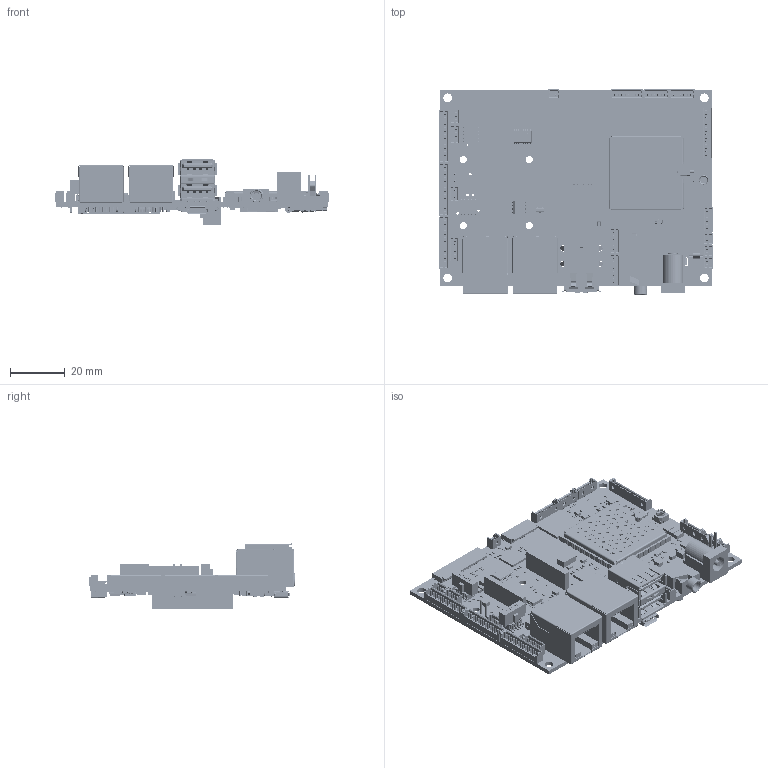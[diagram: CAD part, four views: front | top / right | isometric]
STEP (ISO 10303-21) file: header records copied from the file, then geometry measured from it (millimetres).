
FILE_DESCRIPTION(('Open CASCADE Model'),'2;1');
FILE_NAME('Open CASCADE Shape Model','2016-11-11T16:49:46',('Author'),( 'Open CASCADE'),'Open CASCADE STEP processor 6.8','Open CASCADE 6.8' ,'Unknown');
FILE_SCHEMA(('AUTOMOTIVE_DESIGN { 1 0 10303 214 1 1 1 1 }'));
Length unit declared in the file: millimetre
Products named in the file (876): PCB; Board; R280; 1370324968; Extruded; 1370324832; R283; 753231312; 753231448; R282; 753231040; 753231176; R281; R181; R155; R125; R123; R77; C121; 1370324152; 1370324016; R257; J37; FFSD-05-01-N; FTSH-105-01-X-DV; T-1S15_FTSH-01-DV; FTSH-50-D_Formula; J11; U25; BGA72C65P9X9_700X700X112B35; U2; 1370328096; 1299817856; Cylinder; L24; 1370319800; 1370319936; R279; 1370317760; 1370317624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
Assembly tree (2505 placements, depth 5):
  PCB
    Board
    R280
      1370324968
        Extruded
      1370324832  x2
        Extruded
    R283
      753231312  x2
        Extruded
      753231448
        Extruded
    R282
      753231040  x2
        Extruded
      753231176
        Extruded
    R281
      753231040  x2
        Extruded
      753231176
        Extruded
    R181
      753231312  x2
        Extruded
      753231448
        Extruded
    R155
      753231312  x2
        Extruded
      753231448
        Extruded
    R125
      753231040  x2
        Extruded
      753231176
        Extruded
    R123
      753231312  x2
        Extruded
      753231448
        Extruded
    R77
      753231312  x2
        Extruded
      753231448
        Extruded
    C121
      1370324152  x2
        Extruded
      1370324016
        Extruded
    R257
      753231176
        Extruded
      753231040  x2
        Extruded
    J37
      FFSD-05-01-N
      FTSH-105-01-X-DV
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Bounding box: 100.1 x 75.1 x 24.52 mm (x, y, z)
Volume: 29824.2 mm3; surface area: 52911.8 mm2
Topology: 1965 solids, 2123 shells, 24224 faces, 58453 edges, 38913 vertices
Faces by surface type: plane 21244, cylinder 2322, bspline 255, sphere 235, cone 63, extrusion 61, torus 44
Full cylindrical faces by diameter (mm): 0.4 x8, 0.5 x123, 0.6 x2, 0.8 x1, 0.813 x2, 0.889 x10, 0.9 x14, 0.991 x9, 1.016 x8, 1.02 x2, 1.1 x1, 1.143 x2, 1.6 x7, 2.362 x5, 2.6 x4, 3.2 x8
Entity records: 887366 total; most frequent: CARTESIAN_POINT 346507, DIRECTION 93041, VECTOR 58671, LINE 58610, ORIENTED_EDGE 51077, PCURVE 51077, DEFINITIONAL_REPRESENTATION 51077, EDGE_CURVE 26063
